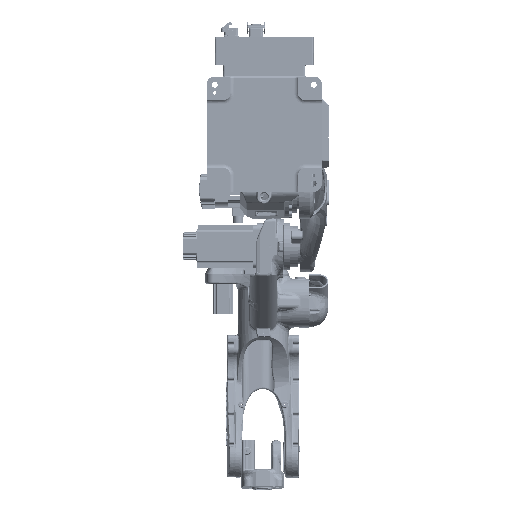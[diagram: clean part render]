
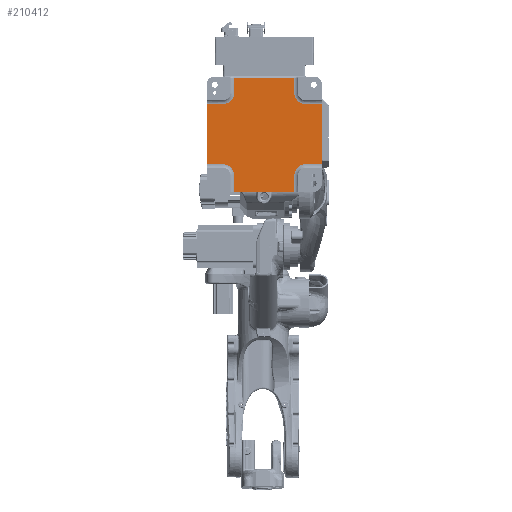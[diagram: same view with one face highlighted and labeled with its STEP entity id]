
A CAD part, front view. The second image highlights one B-rep face of the part: STEP entity #210412.
In plain terms, the highlighted planar face has unit normal (0, -1, 0).
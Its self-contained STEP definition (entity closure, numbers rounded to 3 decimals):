
#2077 = DIRECTION ( 'NONE',  ( 0., 0., 1. ) ) ;
#8727 = EDGE_CURVE ( 'NONE', #130799, #225459, #79689, .T. ) ;
#16793 = ORIENTED_EDGE ( 'NONE', *, *, #189360, .T. ) ;
#18161 = EDGE_CURVE ( 'NONE', #202921, #45866, #104680, .T. ) ;
#18880 = CARTESIAN_POINT ( 'NONE',  ( -91.409, 2., -125. ) ) ;
#19453 = LINE ( 'NONE', #205281, #103236 ) ;
#22969 = VERTEX_POINT ( 'NONE', #301758 ) ;
#24648 = CARTESIAN_POINT ( 'NONE',  ( -150., 2., -174.93 ) ) ;
#33355 = CIRCLE ( 'NONE', #210281, 33.591 ) ;
#39931 = CIRCLE ( 'NONE', #314984, 33.591 ) ;
#41991 = FACE_OUTER_BOUND ( 'NONE', #70090, .T. ) ;
#42851 = DIRECTION ( 'NONE',  ( 1., 0., 0. ) ) ;
#45866 = VERTEX_POINT ( 'NONE', #357184 ) ;
#50188 = ORIENTED_EDGE ( 'NONE', *, *, #216065, .T. ) ;
#55708 = VECTOR ( 'NONE', #128054, 1000. ) ;
#62362 = CARTESIAN_POINT ( 'NONE',  ( 91.409, 2., -174.93 ) ) ;
#63330 = ORIENTED_EDGE ( 'NONE', *, *, #181049, .T. ) ;
#64000 = LINE ( 'NONE', #183448, #248930 ) ;
#65006 = ORIENTED_EDGE ( 'NONE', *, *, #8727, .T. ) ;
#65938 = DIRECTION ( 'NONE',  ( 0., 0., -1. ) ) ;
#66738 = DIRECTION ( 'NONE',  ( 1., 0., 0. ) ) ;
#70090 = EDGE_LOOP ( 'NONE', ( #289123, #63330, #153425, #207713, #236467, #165324, #283235, #169379, #65006, #322013, #73229, #329259, #272625, #16793, #345324, #50188 ) ) ;
#73229 = ORIENTED_EDGE ( 'NONE', *, *, #205756, .T. ) ;
#79689 = LINE ( 'NONE', #320140, #181021 ) ;
#84712 = CIRCLE ( 'NONE', #310648, 33.591 ) ;
#86883 = CARTESIAN_POINT ( 'NONE',  ( -174.93, 2., 91.409 ) ) ;
#88448 = VECTOR ( 'NONE', #140704, 1000. ) ;
#91026 = DIRECTION ( 'NONE',  ( 0., 0., 1. ) ) ;
#94664 = CARTESIAN_POINT ( 'NONE',  ( 91.409, 2., 125. ) ) ;
#95370 = VECTOR ( 'NONE', #65938, 1000. ) ;
#95848 = CIRCLE ( 'NONE', #343474, 33.591 ) ;
#96616 = VECTOR ( 'NONE', #248137, 1000. ) ;
#99749 = CARTESIAN_POINT ( 'NONE',  ( -174.93, 2., -150. ) ) ;
#103236 = VECTOR ( 'NONE', #346725, 1000. ) ;
#104680 = LINE ( 'NONE', #238108, #135415 ) ;
#115857 = EDGE_CURVE ( 'NONE', #313673, #257623, #139960, .T. ) ;
#119691 = DIRECTION ( 'NONE',  ( 0., 0., -1. ) ) ;
#121494 = EDGE_CURVE ( 'NONE', #251302, #202921, #95848, .T. ) ;
#121917 = CARTESIAN_POINT ( 'NONE',  ( -91.409, 2., 169.843 ) ) ;
#123482 = CARTESIAN_POINT ( 'NONE',  ( 125., 2., -125. ) ) ;
#124718 = DIRECTION ( 'NONE',  ( 0., 0., 1. ) ) ;
#125925 = DIRECTION ( 'NONE',  ( 0., 1., 0. ) ) ;
#128054 = DIRECTION ( 'NONE',  ( 0., 0., -1. ) ) ;
#128615 = VERTEX_POINT ( 'NONE', #286761 ) ;
#129222 = VERTEX_POINT ( 'NONE', #348599 ) ;
#130799 = VERTEX_POINT ( 'NONE', #18880 ) ;
#131155 = VECTOR ( 'NONE', #208157, 1000. ) ;
#135415 = VECTOR ( 'NONE', #323023, 1000. ) ;
#139960 = LINE ( 'NONE', #291816, #131155 ) ;
#140704 = DIRECTION ( 'NONE',  ( 0., 0., 1. ) ) ;
#143660 = DIRECTION ( 'NONE',  ( 0., 1., 0. ) ) ;
#144158 = DIRECTION ( 'NONE',  ( 0., 0., 1. ) ) ;
#146453 = VERTEX_POINT ( 'NONE', #62362 ) ;
#150796 = CARTESIAN_POINT ( 'NONE',  ( -91.409, 2., -174.93 ) ) ;
#153425 = ORIENTED_EDGE ( 'NONE', *, *, #208947, .T. ) ;
#159955 = LINE ( 'NONE', #343680, #318496 ) ;
#163245 = EDGE_CURVE ( 'NONE', #365450, #130799, #33355, .T. ) ;
#163694 = CARTESIAN_POINT ( 'NONE',  ( -91.409, 2., 125. ) ) ;
#165324 = ORIENTED_EDGE ( 'NONE', *, *, #236683, .T. ) ;
#169379 = ORIENTED_EDGE ( 'NONE', *, *, #163245, .T. ) ;
#169664 = EDGE_CURVE ( 'NONE', #343996, #313673, #84712, .T. ) ;
#170987 = VERTEX_POINT ( 'NONE', #282576 ) ;
#171214 = CARTESIAN_POINT ( 'NONE',  ( 91.409, 2., 105. ) ) ;
#179977 = DIRECTION ( 'NONE',  ( 0., 1., 0. ) ) ;
#181021 = VECTOR ( 'NONE', #119691, 1000. ) ;
#181049 = EDGE_CURVE ( 'NONE', #22969, #302825, #64000, .T. ) ;
#183448 = CARTESIAN_POINT ( 'NONE',  ( -175.087, 2., 169.843 ) ) ;
#189360 = EDGE_CURVE ( 'NONE', #45866, #129222, #216242, .T. ) ;
#194049 = EDGE_CURVE ( 'NONE', #225459, #146453, #342250, .T. ) ;
#202921 = VERTEX_POINT ( 'NONE', #223586 ) ;
#203072 = DIRECTION ( 'NONE',  ( 0., 1., 0. ) ) ;
#203942 = CARTESIAN_POINT ( 'NONE',  ( -175.087, 2., 105. ) ) ;
#205281 = CARTESIAN_POINT ( 'NONE',  ( -175.087, 2., 91.409 ) ) ;
#205756 = EDGE_CURVE ( 'NONE', #146453, #251302, #356487, .T. ) ;
#207713 = ORIENTED_EDGE ( 'NONE', *, *, #169664, .T. ) ;
#208157 = DIRECTION ( 'NONE',  ( -1., 0., 0. ) ) ;
#208947 = EDGE_CURVE ( 'NONE', #302825, #343996, #227444, .T. ) ;
#210281 = AXIS2_PLACEMENT_3D ( 'NONE', #217647, #361612, #330839 ) ;
#210412 = ADVANCED_FACE ( 'NONE', ( #41991 ), #221304, .F. ) ;
#213126 = EDGE_CURVE ( 'NONE', #128615, #365450, #159955, .T. ) ;
#214785 = CARTESIAN_POINT ( 'NONE',  ( 91.409, 2., -125. ) ) ;
#215376 = LINE ( 'NONE', #171214, #298985 ) ;
#216065 = EDGE_CURVE ( 'NONE', #170987, #298005, #39931, .T. ) ;
#216242 = LINE ( 'NONE', #276083, #88448 ) ;
#217647 = CARTESIAN_POINT ( 'NONE',  ( -125., 2., -125. ) ) ;
#221304 = PLANE ( 'NONE',  #323634 ) ;
#223586 = CARTESIAN_POINT ( 'NONE',  ( 125., 2., -91.409 ) ) ;
#225459 = VERTEX_POINT ( 'NONE', #150796 ) ;
#227444 = LINE ( 'NONE', #291069, #95370 ) ;
#236467 = ORIENTED_EDGE ( 'NONE', *, *, #115857, .T. ) ;
#236683 = EDGE_CURVE ( 'NONE', #257623, #128615, #240676, .T. ) ;
#238108 = CARTESIAN_POINT ( 'NONE',  ( -175.087, 2., -91.409 ) ) ;
#240676 = LINE ( 'NONE', #99749, #55708 ) ;
#243600 = DIRECTION ( 'NONE',  ( -1., 0., 0. ) ) ;
#248137 = DIRECTION ( 'NONE',  ( 0., 0., 1. ) ) ;
#248930 = VECTOR ( 'NONE', #243600, 1000. ) ;
#251302 = VERTEX_POINT ( 'NONE', #214785 ) ;
#257623 = VERTEX_POINT ( 'NONE', #86883 ) ;
#258489 = VECTOR ( 'NONE', #42851, 1000. ) ;
#264763 = DIRECTION ( 'NONE',  ( 0., 0., 1. ) ) ;
#272625 = ORIENTED_EDGE ( 'NONE', *, *, #18161, .T. ) ;
#276083 = CARTESIAN_POINT ( 'NONE',  ( 174.93, 2., -150. ) ) ;
#282576 = CARTESIAN_POINT ( 'NONE',  ( 125., 2., 91.409 ) ) ;
#283235 = ORIENTED_EDGE ( 'NONE', *, *, #213126, .T. ) ;
#286761 = CARTESIAN_POINT ( 'NONE',  ( -174.93, 2., -91.409 ) ) ;
#289123 = ORIENTED_EDGE ( 'NONE', *, *, #348659, .T. ) ;
#291069 = CARTESIAN_POINT ( 'NONE',  ( -91.409, 2., 105. ) ) ;
#291816 = CARTESIAN_POINT ( 'NONE',  ( -175.087, 2., 91.409 ) ) ;
#298005 = VERTEX_POINT ( 'NONE', #94664 ) ;
#298985 = VECTOR ( 'NONE', #144158, 1000. ) ;
#301758 = CARTESIAN_POINT ( 'NONE',  ( 91.409, 2., 169.843 ) ) ;
#302825 = VERTEX_POINT ( 'NONE', #121917 ) ;
#310648 = AXIS2_PLACEMENT_3D ( 'NONE', #352213, #179977, #264763 ) ;
#313673 = VERTEX_POINT ( 'NONE', #357766 ) ;
#314984 = AXIS2_PLACEMENT_3D ( 'NONE', #343283, #203072, #91026 ) ;
#318496 = VECTOR ( 'NONE', #66738, 1000. ) ;
#320140 = CARTESIAN_POINT ( 'NONE',  ( -91.409, 2., 105. ) ) ;
#321035 = EDGE_CURVE ( 'NONE', #129222, #170987, #19453, .T. ) ;
#322013 = ORIENTED_EDGE ( 'NONE', *, *, #194049, .T. ) ;
#323023 = DIRECTION ( 'NONE',  ( 1., 0., 0. ) ) ;
#323634 = AXIS2_PLACEMENT_3D ( 'NONE', #203942, #143660, #2077 ) ;
#329259 = ORIENTED_EDGE ( 'NONE', *, *, #121494, .T. ) ;
#330839 = DIRECTION ( 'NONE',  ( 0., 0., 1. ) ) ;
#331886 = CARTESIAN_POINT ( 'NONE',  ( 91.409, 2., 105. ) ) ;
#342250 = LINE ( 'NONE', #24648, #258489 ) ;
#343283 = CARTESIAN_POINT ( 'NONE',  ( 125., 2., 125. ) ) ;
#343474 = AXIS2_PLACEMENT_3D ( 'NONE', #123482, #125925, #124718 ) ;
#343680 = CARTESIAN_POINT ( 'NONE',  ( -175.087, 2., -91.409 ) ) ;
#343996 = VERTEX_POINT ( 'NONE', #163694 ) ;
#345324 = ORIENTED_EDGE ( 'NONE', *, *, #321035, .T. ) ;
#346725 = DIRECTION ( 'NONE',  ( -1., 0., 0. ) ) ;
#348599 = CARTESIAN_POINT ( 'NONE',  ( 174.93, 2., 91.409 ) ) ;
#348659 = EDGE_CURVE ( 'NONE', #298005, #22969, #215376, .T. ) ;
#352213 = CARTESIAN_POINT ( 'NONE',  ( -125., 2., 125. ) ) ;
#356487 = LINE ( 'NONE', #331886, #96616 ) ;
#357184 = CARTESIAN_POINT ( 'NONE',  ( 174.93, 2., -91.409 ) ) ;
#357766 = CARTESIAN_POINT ( 'NONE',  ( -125., 2., 91.409 ) ) ;
#359692 = CARTESIAN_POINT ( 'NONE',  ( -125., 2., -91.409 ) ) ;
#361612 = DIRECTION ( 'NONE',  ( 0., 1., 0. ) ) ;
#365450 = VERTEX_POINT ( 'NONE', #359692 ) ;
